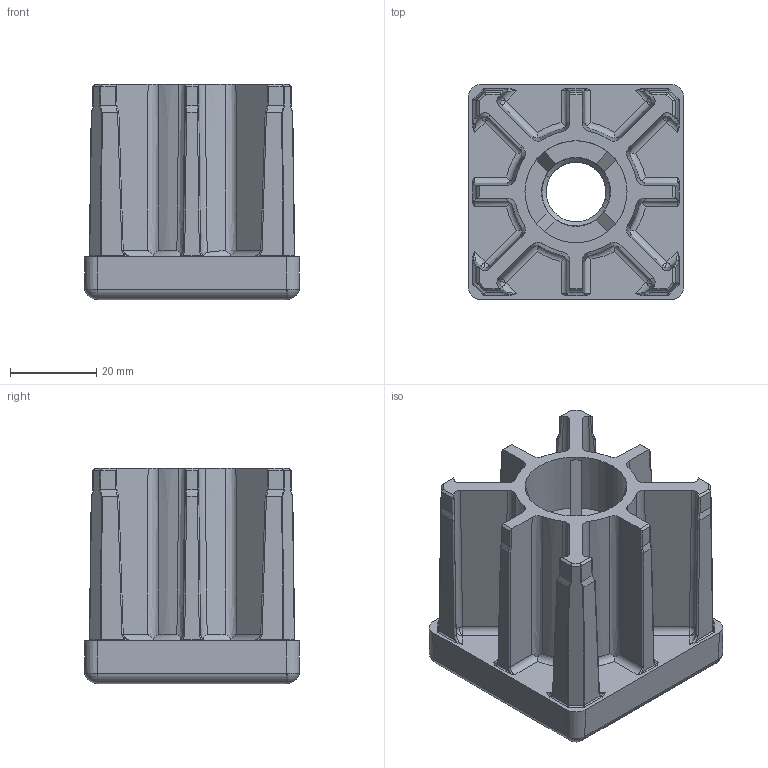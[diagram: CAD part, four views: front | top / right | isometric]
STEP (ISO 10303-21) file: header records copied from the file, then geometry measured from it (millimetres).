
FILE_DESCRIPTION(('CATIA V5 STEP Exchange'),'2;1');
FILE_NAME('C:\Users\ghidonia\Desktop\3\P41656_01.stp','2016-06-07T15:42:06+00:00',('none'),('none'),'Version 5-6 Release 2012','CATIA V5 STEP AP203','none');
FILE_SCHEMA(('CONFIG_CONTROL_DESIGN'));
Length unit declared in the file: millimetre
Products named in the file (1): P41656_01
Assembly tree (2 placements, depth 2):
  P41656_01
    #58
    #28011
Bounding box: 50 x 50 x 50 mm (x, y, z)
Volume: 56356.3 mm3; surface area: 24474.7 mm2
Topology: 2 solids, 2 shells, 814 faces, 2271 edges, 1432 vertices
Faces by surface type: plane 549, cylinder 152, bspline 57, cone 25, sphere 24, torus 7
Entity records: 28581 total; most frequent: CARTESIAN_POINT 9005, ORIENTED_EDGE 4462, DIRECTION 3307, EDGE_CURVE 2231, VECTOR 1721, LINE 1721, VERTEX_POINT 1432, AXIS2_PLACEMENT_3D 872
